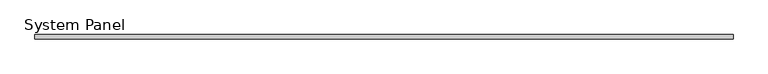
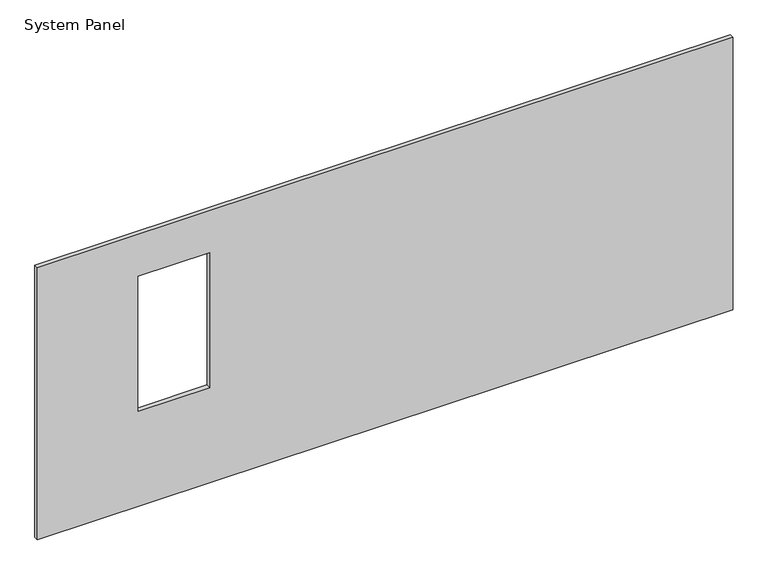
"""IFC4 building model written with IfcOpenShell, lengths in millimetres: plate geometry."""

import ifcopenshell
import ifcopenshell.guid

model = None  # the IFC model being written
_history = None  # IfcOwnerHistory: only IFC2X3 demands one
_inside = {}  # id of a spatial element -> (the spatial element, [elements in it])
_under = {}  # id of a project, library or spatial element -> (it, [spatial elements below it])
_declared = {}  # id of a project -> (the project, [libraries it declares])
_typed = {}  # id of a type object -> (the type object, [elements of that type])
_made_of = {}  # id of a material, layer set ... -> (it, [elements and type objects made of it])


def new_model(schema):
    """Start an empty IFC model of exactly this schema.

    Asked for "IFC4X3", IfcOpenShell would pick the latest addendum, in which some entities
    have other attributes; the version numbers below select the first issue.
    IFC2X3 requires an IfcOwnerHistory on every rooted entity: one is made here for all.
    """
    global model, _history
    if schema == "IFC4X3":
        model = ifcopenshell.file(schema_version=(4, 3, 0, 0))
    else:
        model = ifcopenshell.file(schema=schema)
    _inside.clear()
    _under.clear()
    _declared.clear()
    _typed.clear()
    _made_of.clear()
    _history = None
    if model.schema == "IFC2X3":
        org = make("IfcOrganization", Name="unknown")
        user = make(
            "IfcPersonAndOrganization",
            ThePerson=make("IfcPerson", FamilyName="unknown"),
            TheOrganization=org,
        )
        app = make(
            "IfcApplication",
            ApplicationDeveloper=org,
            Version="unknown",
            ApplicationFullName="unknown",
            ApplicationIdentifier="unknown",
        )
        _history = make(
            "IfcOwnerHistory",
            OwningUser=user,
            OwningApplication=app,
            ChangeAction="ADDED",
            CreationDate=0,
        )
    return model


def make(cls, **values):
    """One entity of the class cls with the attributes given. An attribute that is None is left unset."""
    return model.create_entity(
        cls, **{name: value for name, value in values.items() if value is not None}
    )


def rooted(cls, **values):
    """An entity with a GlobalId (a new one), such as an element, a storey or a relation."""
    return make(cls, GlobalId=ifcopenshell.guid.new(), OwnerHistory=_history, **values)


def si_unit(unit_type, name, prefix=None):
    """IfcSIUnit, for example si_unit("LENGTHUNIT", "METRE", prefix="MILLI")."""
    return make("IfcSIUnit", UnitType=unit_type, Prefix=prefix, Name=name)


def assignment(units):
    """IfcUnitAssignment: the units of a project."""
    return None if units is None else make("IfcUnitAssignment", Units=units)


def point(xyz):
    """IfcCartesianPoint."""
    return None if xyz is None else make("IfcCartesianPoint", Coordinates=xyz)


def direction(xyz):
    """IfcDirection."""
    return None if xyz is None else make("IfcDirection", DirectionRatios=xyz)


def frame(location, z_axis=None, x_axis=None):
    """IfcAxis2Placement3D, a coordinate frame: its origin and axes. An axis left out is left unset."""
    return make(
        "IfcAxis2Placement3D",
        Location=point(location),
        Axis=direction(z_axis),
        RefDirection=direction(x_axis),
    )


def origin():
    """The frame at (0, 0, 0) with its axes left unset."""
    return frame((0.0, 0.0, 0.0))


def place(relative_to, where):
    """IfcLocalPlacement: puts the frame where relative to a parent placement (None: the world)."""
    return make(
        "IfcLocalPlacement", PlacementRelTo=relative_to, RelativePlacement=where
    )


def context(
    kind, dimensions, precision=None, world=None, true_north=None, identifier=None
):
    """IfcGeometricRepresentationContext, for example the 3D "Model" context."""
    return make(
        "IfcGeometricRepresentationContext",
        ContextIdentifier=identifier,
        ContextType=kind,
        CoordinateSpaceDimension=dimensions,
        Precision=precision,
        WorldCoordinateSystem=world,
        TrueNorth=true_north,
    )


def project(units=None, contexts=None):
    """IfcProject with its units and contexts."""
    return rooted(
        "IfcProject",
        Name="project",
        RepresentationContexts=contexts,
        UnitsInContext=assignment(units),
    )


def spatial(cls, under=None, at=None, **own):
    """A site, building, storey or space (cls), placed at a placement, below another one or the project."""
    s = rooted(cls, ObjectPlacement=at, **own)
    if under is not None:
        _under.setdefault(under.id(), (under, []))[1].append(s)
    return s


def polyline(points):
    """IfcPolyline through the points."""
    return make("IfcPolyline", Points=[point(p) for p in points])


def outline(outer, holes=None, kind="AREA"):
    """IfcArbitraryClosedProfileDef: a profile drawn as a closed curve; with holes, ...WithVoids."""
    if holes is None:
        return make("IfcArbitraryClosedProfileDef", ProfileType=kind, OuterCurve=outer)
    return make(
        "IfcArbitraryProfileDefWithVoids",
        ProfileType=kind,
        OuterCurve=outer,
        InnerCurves=holes,
    )


def extrude(swept, where, along, depth):
    """IfcExtrudedAreaSolid: the profile swept, set in the frame where, extruded along a direction by depth."""
    return make(
        "IfcExtrudedAreaSolid",
        SweptArea=swept,
        Position=where,
        ExtrudedDirection=direction(along),
        Depth=depth,
    )


def shape(context_of_items, identifier, shape_type, items):
    """IfcShapeRepresentation: the items that make up one representation, for example the "Body"."""
    return make(
        "IfcShapeRepresentation",
        ContextOfItems=context_of_items,
        RepresentationIdentifier=identifier,
        RepresentationType=shape_type,
        Items=items,
    )


def source(mapping_origin, context_of_items, identifier, shape_type, items):
    """IfcRepresentationMap: a shape defined once, which mapped items show again and again."""
    return make(
        "IfcRepresentationMap",
        MappingOrigin=mapping_origin,
        MappedRepresentation=shape(context_of_items, identifier, shape_type, items),
    )


def transform(
    local_origin,
    x_axis=None,
    y_axis=None,
    z_axis=None,
    scale=None,
    scale2=None,
    scale3=None,
    uniform=True,
):
    """IfcCartesianTransformationOperator3D, or its non-uniform kind. x_axis, y_axis, z_axis: its Axis1, 2, 3."""
    if uniform:
        return make(
            "IfcCartesianTransformationOperator3D",
            Axis1=direction(x_axis),
            Axis2=direction(y_axis),
            LocalOrigin=point(local_origin),
            Scale=scale,
            Axis3=direction(z_axis),
        )
    return make(
        "IfcCartesianTransformationOperator3DnonUniform",
        Axis1=direction(x_axis),
        Axis2=direction(y_axis),
        LocalOrigin=point(local_origin),
        Scale=scale,
        Axis3=direction(z_axis),
        Scale2=scale2,
        Scale3=scale3,
    )


def mapped(mapping_source, mapping_target):
    """IfcMappedItem: shows the shape of a source again, moved by a transform."""
    return make(
        "IfcMappedItem", MappingSource=mapping_source, MappingTarget=mapping_target
    )


def made_of(thing, what):
    """Note that an element or type object is made of a material, layer set ...; save() writes the relation."""
    if what is not None:
        _made_of.setdefault(what.id(), (what, []))[1].append(thing)
    return thing


def element(
    cls,
    number,
    at=None,
    inside=None,
    cuts=None,
    type_object=None,
    material=None,
    context=None,
    identifier="Body",
    shape_type=None,
    held_by="IfcProductDefinitionShape",
    body=None,
    shapes=None,
    **own,
):
    """One element of the class cls, such as IfcWall. Its Tag is "e" and its number.

    at: its placement. inside: the storey or other place that contains it. cuts: it is an
    opening in that element (IfcRelVoidsElement). A single representation is given by context,
    identifier, shape_type and body (its items); several are given by shapes. held_by: the class
    of the entity that holds the representations. save() writes the other relations.
    """
    e = rooted(cls, Tag="e%d" % number, ObjectPlacement=at, **own)
    if body is not None:
        shapes = [shape(context, identifier, shape_type, body)]
    if shapes is not None:
        e.Representation = make(held_by, Representations=shapes)
    if inside is not None:
        _inside.setdefault(inside.id(), (inside, []))[1].append(e)
    if cuts is not None:
        rooted(
            "IfcRelVoidsElement", RelatingBuildingElement=cuts, RelatedOpeningElement=e
        )
    if type_object is not None:
        _typed.setdefault(type_object.id(), (type_object, []))[1].append(e)
    return made_of(e, material)


def aggregate(whole, parts):
    """IfcRelAggregates: a whole, such as a stair, and the parts it consists of."""
    return rooted("IfcRelAggregates", RelatingObject=whole, RelatedObjects=parts)


def save(model, path):
    """Write the relations noted so far, then the file.

    IfcRelAggregates (storeys below a building ...), IfcRelContainedInSpatialStructure (elements
    in a storey), IfcRelDefinesByType, IfcRelAssociatesMaterial and IfcRelDeclares: one each for
    every whole, place, type object, material and project.
    """
    for whole, parts in _under.values():
        aggregate(whole, parts)
    for where, things in _inside.values():
        rooted(
            "IfcRelContainedInSpatialStructure",
            RelatedElements=things,
            RelatingStructure=where,
        )
    for kind, things in _typed.values():
        rooted("IfcRelDefinesByType", RelatedObjects=things, RelatingType=kind)
    for what, things in _made_of.values():
        rooted("IfcRelAssociatesMaterial", RelatedObjects=things, RelatingMaterial=what)
    for by, libraries in _declared.values():
        rooted("IfcRelDeclares", RelatingContext=by, RelatedDefinitions=libraries)
    model.write(path)


def system_panel_cb42da73(model_context):
    return source(origin(), model_context, "Body", "SweptSolid", [
        extrude(outline(polyline([(0.0, -2978.8197218), (0.0, 2978.8197218), (2463.8, 2978.8197218), (2463.8, -2978.8197218), (0.0, -2978.8197218)]), holes=[polyline([(863.6, -1504.1262718), (863.6, -2113.7262718), (2082.8, -2113.7262718), (2082.8, -1504.1262718), (863.6, -1504.1262718)])]), frame((0.0, -19.05, 0.0), z_axis=(0.0, 1.0, 0.0), x_axis=(0.0, 0.0, 1.0)), (0.0, 0.0, 1.0), 38.1),
    ])


if __name__ == "__main__":
    model = new_model("IFC4")
    model_context = context("Model", 3, world=origin())
    ifc_project = project(units=[si_unit("LENGTHUNIT", "METRE", prefix="MILLI")], contexts=[model_context])
    site = spatial("IfcSite", under=ifc_project)
    building = spatial("IfcBuilding", under=site)
    placement = place(None, origin())
    system_panel_shape = system_panel_cb42da73(model_context)
    element("IfcPlate", 1, ObjectType="System Panel : 1/2\" Plywood & 1\" Rigid Ins.", at=placement, inside=building, context=model_context, shape_type="MappedRepresentation", body=[
        mapped(system_panel_shape, transform((0.0, 0.0, 0.0), x_axis=(1.0, 0.0, 0.0), y_axis=(0.0, 1.0, 0.0), z_axis=(0.0, 0.0, 1.0))),
    ])
    save(model, "model.ifc")
